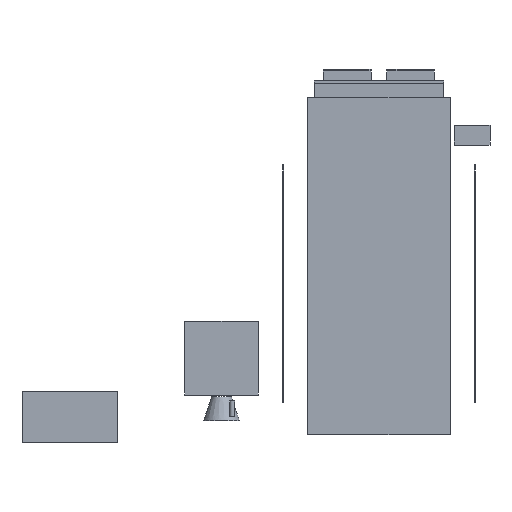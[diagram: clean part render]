
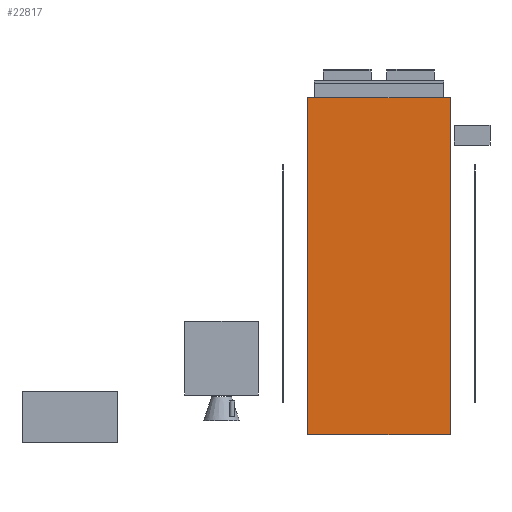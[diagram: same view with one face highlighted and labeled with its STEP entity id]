
A CAD part, front view. The second image highlights one B-rep face of the part: STEP entity #22817.
In plain terms, the highlighted planar face has unit normal (0, -1, 0).
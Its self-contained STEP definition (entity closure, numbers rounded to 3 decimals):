
#22601 = EDGE_CURVE('',#22602,#22604,#22606,.T.);
#22602 = VERTEX_POINT('',#22603);
#22603 = CARTESIAN_POINT('',(-180.,-36.,-80.));
#22604 = VERTEX_POINT('',#22605);
#22605 = CARTESIAN_POINT('',(-180.,-36.,770.));
#22606 = SURFACE_CURVE('',#22607,(#22611,#22623),.PCURVE_S1.);
#22607 = LINE('',#22608,#22609);
#22608 = CARTESIAN_POINT('',(-180.,-36.,-80.));
#22609 = VECTOR('',#22610,1.);
#22610 = DIRECTION('',(0.,0.,1.));
#22611 = PCURVE('',#22612,#22617);
#22612 = PLANE('',#22613);
#22613 = AXIS2_PLACEMENT_3D('',#22614,#22615,#22616);
#22614 = CARTESIAN_POINT('',(-180.,-36.,-80.));
#22615 = DIRECTION('',(1.,0.,0.));
#22616 = DIRECTION('',(0.,0.,1.));
#22617 = DEFINITIONAL_REPRESENTATION('',(#22618),#22622);
#22618 = LINE('',#22619,#22620);
#22619 = CARTESIAN_POINT('',(0.,0.));
#22620 = VECTOR('',#22621,1.);
#22621 = DIRECTION('',(1.,0.));
#22622 = ( GEOMETRIC_REPRESENTATION_CONTEXT(2) 
PARAMETRIC_REPRESENTATION_CONTEXT() REPRESENTATION_CONTEXT('2D SPACE',''
  ) );
#22623 = PCURVE('',#22624,#22629);
#22624 = PLANE('',#22625);
#22625 = AXIS2_PLACEMENT_3D('',#22626,#22627,#22628);
#22626 = CARTESIAN_POINT('',(-180.,-36.,-80.));
#22627 = DIRECTION('',(0.,1.,0.));
#22628 = DIRECTION('',(0.,0.,1.));
#22629 = DEFINITIONAL_REPRESENTATION('',(#22630),#22634);
#22630 = LINE('',#22631,#22632);
#22631 = CARTESIAN_POINT('',(0.,0.));
#22632 = VECTOR('',#22633,1.);
#22633 = DIRECTION('',(1.,0.));
#22634 = ( GEOMETRIC_REPRESENTATION_CONTEXT(2) 
PARAMETRIC_REPRESENTATION_CONTEXT() REPRESENTATION_CONTEXT('2D SPACE',''
  ) );
#22652 = PLANE('',#22653);
#22653 = AXIS2_PLACEMENT_3D('',#22654,#22655,#22656);
#22654 = CARTESIAN_POINT('',(-180.,-36.,-80.));
#22655 = DIRECTION('',(0.,0.,1.));
#22656 = DIRECTION('',(1.,0.,0.));
#22706 = PLANE('',#22707);
#22707 = AXIS2_PLACEMENT_3D('',#22708,#22709,#22710);
#22708 = CARTESIAN_POINT('',(-180.,-36.,770.));
#22709 = DIRECTION('',(0.,0.,1.));
#22710 = DIRECTION('',(1.,0.,0.));
#22721 = EDGE_CURVE('',#22722,#22724,#22726,.T.);
#22722 = VERTEX_POINT('',#22723);
#22723 = CARTESIAN_POINT('',(180.,-36.,-80.));
#22724 = VERTEX_POINT('',#22725);
#22725 = CARTESIAN_POINT('',(180.,-36.,770.));
#22726 = SURFACE_CURVE('',#22727,(#22731,#22743),.PCURVE_S1.);
#22727 = LINE('',#22728,#22729);
#22728 = CARTESIAN_POINT('',(180.,-36.,-80.));
#22729 = VECTOR('',#22730,1.);
#22730 = DIRECTION('',(0.,0.,1.));
#22731 = PCURVE('',#22732,#22737);
#22732 = PLANE('',#22733);
#22733 = AXIS2_PLACEMENT_3D('',#22734,#22735,#22736);
#22734 = CARTESIAN_POINT('',(180.,-36.,-80.));
#22735 = DIRECTION('',(1.,0.,0.));
#22736 = DIRECTION('',(0.,0.,1.));
#22737 = DEFINITIONAL_REPRESENTATION('',(#22738),#22742);
#22738 = LINE('',#22739,#22740);
#22739 = CARTESIAN_POINT('',(0.,0.));
#22740 = VECTOR('',#22741,1.);
#22741 = DIRECTION('',(1.,0.));
#22742 = ( GEOMETRIC_REPRESENTATION_CONTEXT(2) 
PARAMETRIC_REPRESENTATION_CONTEXT() REPRESENTATION_CONTEXT('2D SPACE',''
  ) );
#22743 = PCURVE('',#22624,#22744);
#22744 = DEFINITIONAL_REPRESENTATION('',(#22745),#22749);
#22745 = LINE('',#22746,#22747);
#22746 = CARTESIAN_POINT('',(0.,360.));
#22747 = VECTOR('',#22748,1.);
#22748 = DIRECTION('',(1.,0.));
#22749 = ( GEOMETRIC_REPRESENTATION_CONTEXT(2) 
PARAMETRIC_REPRESENTATION_CONTEXT() REPRESENTATION_CONTEXT('2D SPACE',''
  ) );
#22817 = ADVANCED_FACE('',(#22818),#22624,.F.);
#22818 = FACE_BOUND('',#22819,.F.);
#22819 = EDGE_LOOP('',(#22820,#22841,#22842,#22863));
#22820 = ORIENTED_EDGE('',*,*,#22821,.F.);
#22821 = EDGE_CURVE('',#22602,#22722,#22822,.T.);
#22822 = SURFACE_CURVE('',#22823,(#22827,#22834),.PCURVE_S1.);
#22823 = LINE('',#22824,#22825);
#22824 = CARTESIAN_POINT('',(-180.,-36.,-80.));
#22825 = VECTOR('',#22826,1.);
#22826 = DIRECTION('',(1.,0.,0.));
#22827 = PCURVE('',#22624,#22828);
#22828 = DEFINITIONAL_REPRESENTATION('',(#22829),#22833);
#22829 = LINE('',#22830,#22831);
#22830 = CARTESIAN_POINT('',(0.,0.));
#22831 = VECTOR('',#22832,1.);
#22832 = DIRECTION('',(0.,1.));
#22833 = ( GEOMETRIC_REPRESENTATION_CONTEXT(2) 
PARAMETRIC_REPRESENTATION_CONTEXT() REPRESENTATION_CONTEXT('2D SPACE',''
  ) );
#22834 = PCURVE('',#22652,#22835);
#22835 = DEFINITIONAL_REPRESENTATION('',(#22836),#22840);
#22836 = LINE('',#22837,#22838);
#22837 = CARTESIAN_POINT('',(0.,0.));
#22838 = VECTOR('',#22839,1.);
#22839 = DIRECTION('',(1.,0.));
#22840 = ( GEOMETRIC_REPRESENTATION_CONTEXT(2) 
PARAMETRIC_REPRESENTATION_CONTEXT() REPRESENTATION_CONTEXT('2D SPACE',''
  ) );
#22841 = ORIENTED_EDGE('',*,*,#22601,.T.);
#22842 = ORIENTED_EDGE('',*,*,#22843,.T.);
#22843 = EDGE_CURVE('',#22604,#22724,#22844,.T.);
#22844 = SURFACE_CURVE('',#22845,(#22849,#22856),.PCURVE_S1.);
#22845 = LINE('',#22846,#22847);
#22846 = CARTESIAN_POINT('',(-180.,-36.,770.));
#22847 = VECTOR('',#22848,1.);
#22848 = DIRECTION('',(1.,0.,0.));
#22849 = PCURVE('',#22624,#22850);
#22850 = DEFINITIONAL_REPRESENTATION('',(#22851),#22855);
#22851 = LINE('',#22852,#22853);
#22852 = CARTESIAN_POINT('',(850.,0.));
#22853 = VECTOR('',#22854,1.);
#22854 = DIRECTION('',(0.,1.));
#22855 = ( GEOMETRIC_REPRESENTATION_CONTEXT(2) 
PARAMETRIC_REPRESENTATION_CONTEXT() REPRESENTATION_CONTEXT('2D SPACE',''
  ) );
#22856 = PCURVE('',#22706,#22857);
#22857 = DEFINITIONAL_REPRESENTATION('',(#22858),#22862);
#22858 = LINE('',#22859,#22860);
#22859 = CARTESIAN_POINT('',(0.,0.));
#22860 = VECTOR('',#22861,1.);
#22861 = DIRECTION('',(1.,0.));
#22862 = ( GEOMETRIC_REPRESENTATION_CONTEXT(2) 
PARAMETRIC_REPRESENTATION_CONTEXT() REPRESENTATION_CONTEXT('2D SPACE',''
  ) );
#22863 = ORIENTED_EDGE('',*,*,#22721,.F.);
